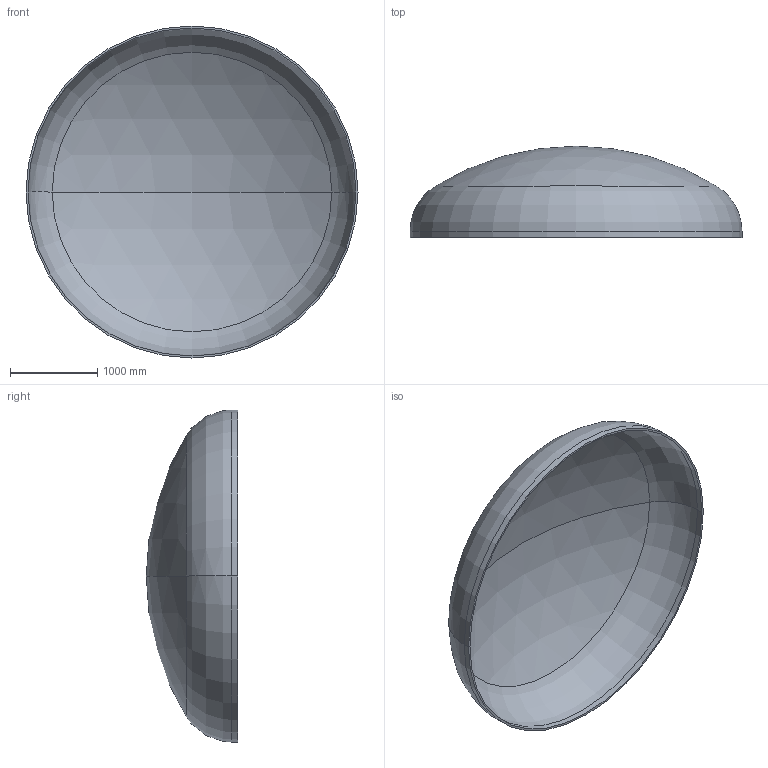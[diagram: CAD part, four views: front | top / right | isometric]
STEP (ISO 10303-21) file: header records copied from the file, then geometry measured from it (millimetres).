
FILE_DESCRIPTION (( 'STEP AP203' ), '1' );
FILE_NAME ('DIN 28013 Korbbogenform_-_Boden DIN 28013 - 3800 x 70 - I - s=23.step', '2016-07-01T21:10:41', ( '' ), ( '' ), 'SwSTEP 2.0', 'SolidWorks 2013', '' );
FILE_SCHEMA (( 'CONFIG_CONTROL_DESIGN' ));
Length unit declared in the file: millimetre
Products named in the file (1): DIN 28013 Korbbogenform_-_Boden DIN 28013 - 3800 x 70 - I - s=23
Bounding box: 3800 x 1045.47 x 3800 mm (x, y, z)
Volume: 377477036.4 mm3; surface area: 33098098.5 mm2
Topology: 1 solids, 1 shells, 13 faces, 24 edges, 14 vertices
Faces by surface type: torus 4, cylinder 4, sphere 4, plane 1
Entity records: 407 total; most frequent: DIRECTION 72, CARTESIAN_POINT 52, ORIENTED_EDGE 48, AXIS2_PLACEMENT_3D 34, EDGE_CURVE 24, CIRCLE 20, VERTEX_POINT 14, EDGE_LOOP 14
